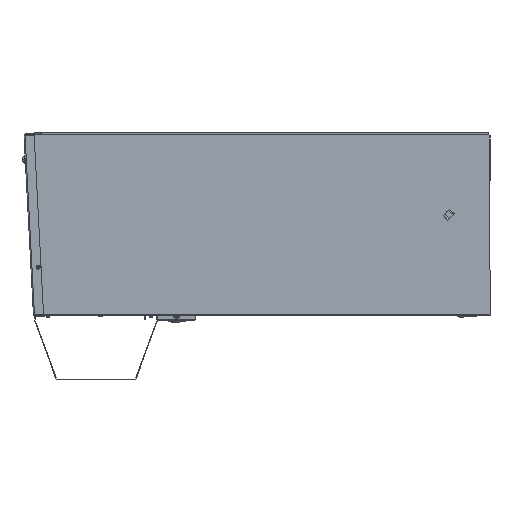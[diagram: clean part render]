
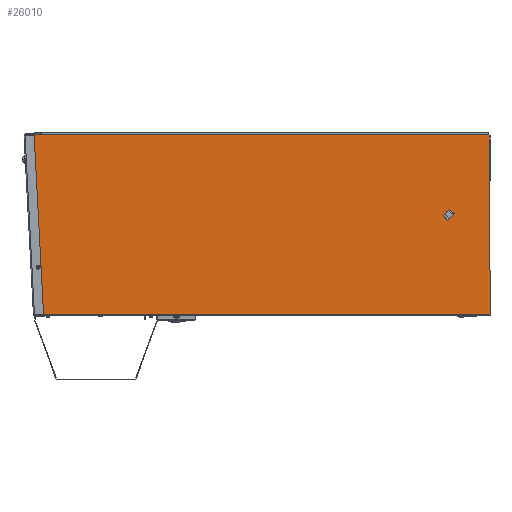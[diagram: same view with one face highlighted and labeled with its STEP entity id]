
A CAD part, left-side view. The second image highlights one B-rep face of the part: STEP entity #26010.
In plain terms, the highlighted planar face has unit normal (-1, 0, 0).
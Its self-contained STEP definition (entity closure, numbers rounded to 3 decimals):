
#206 = ORIENTED_EDGE ( 'NONE', *, *, #128121, .T. ) ;
#1300 = CARTESIAN_POINT ( 'NONE',  ( -147.5, 875.797, -83.64 ) ) ;
#3246 = ORIENTED_EDGE ( 'NONE', *, *, #89062, .T. ) ;
#5063 = EDGE_CURVE ( 'NONE', #69614, #211356, #109541, .T. ) ;
#5707 = LINE ( 'NONE', #210403, #140465 ) ;
#6146 = VERTEX_POINT ( 'NONE', #152142 ) ;
#6291 = LINE ( 'NONE', #91248, #21149 ) ;
#6830 = EDGE_CURVE ( 'NONE', #69614, #193072, #6291, .T. ) ;
#12354 = DIRECTION ( 'NONE',  ( -1., 0., 0. ) ) ;
#21149 = VECTOR ( 'NONE', #153385, 1000. ) ;
#23368 = CARTESIAN_POINT ( 'NONE',  ( -147.5, 74.952, 17.807 ) ) ;
#26010 = ADVANCED_FACE ( 'NONE', ( #128750, #64424, #129814 ), #78613, .F. ) ;
#26681 = DIRECTION ( 'NONE',  ( 0., 0.707, 0.707 ) ) ;
#29932 = CIRCLE ( 'NONE', #151705, 3.05 ) ;
#30092 = VECTOR ( 'NONE', #203098, 1000. ) ;
#34914 = CARTESIAN_POINT ( 'NONE',  ( -147.5, 53.103, 21.696 ) ) ;
#35849 = AXIS2_PLACEMENT_3D ( 'NONE', #76466, #143995, #47012 ) ;
#40378 = VECTOR ( 'NONE', #213830, 1000. ) ;
#42177 = CARTESIAN_POINT ( 'NONE',  ( -147.5, -17.578, -177.5 ) ) ;
#43157 = VERTEX_POINT ( 'NONE', #43801 ) ;
#43468 = EDGE_LOOP ( 'NONE', ( #173493, #173336, #144610, #46913 ) ) ;
#43801 = CARTESIAN_POINT ( 'NONE',  ( -147.5, 875.797, -80.59 ) ) ;
#45642 = VERTEX_POINT ( 'NONE', #205875 ) ;
#46913 = ORIENTED_EDGE ( 'NONE', *, *, #5063, .T. ) ;
#47012 = DIRECTION ( 'NONE',  ( 0., 0., -1. ) ) ;
#48012 = DIRECTION ( 'NONE',  ( 1., 0., 0. ) ) ;
#48973 = EDGE_LOOP ( 'NONE', ( #3246, #190697, #116037, #52272, #118122, #141368 ) ) ;
#51264 = CARTESIAN_POINT ( 'NONE',  ( -147.5, 65.972, 8.827 ) ) ;
#52272 = ORIENTED_EDGE ( 'NONE', *, *, #133655, .F. ) ;
#52761 = CARTESIAN_POINT ( 'NONE',  ( -147.5, 431.922, 177.5 ) ) ;
#53827 = CARTESIAN_POINT ( 'NONE',  ( -147.5, 880.191, -200.993 ) ) ;
#58717 = DIRECTION ( 'NONE',  ( -1., 0., 0. ) ) ;
#61850 = AXIS2_PLACEMENT_3D ( 'NONE', #1300, #134194, #98311 ) ;
#62185 = CARTESIAN_POINT ( 'NONE',  ( -147.5, 875.797, -83.64 ) ) ;
#64424 = FACE_BOUND ( 'NONE', #43468, .T. ) ;
#65259 = CIRCLE ( 'NONE', #113489, 2. ) ;
#69614 = VERTEX_POINT ( 'NONE', #51264 ) ;
#70494 = DIRECTION ( 'NONE',  ( 0., -0.707, 0.707 ) ) ;
#72603 = LINE ( 'NONE', #169626, #157753 ) ;
#74018 = EDGE_LOOP ( 'NONE', ( #95910, #206 ) ) ;
#76466 = CARTESIAN_POINT ( 'NONE',  ( -147.5, 431.922, -177.5 ) ) ;
#78613 = PLANE ( 'NONE',  #35849 ) ;
#83522 = CIRCLE ( 'NONE', #194819, 2. ) ;
#84172 = CARTESIAN_POINT ( 'NONE',  ( -147.5, -17.578, -176.636 ) ) ;
#89062 = EDGE_CURVE ( 'NONE', #214946, #163605, #120352, .T. ) ;
#91248 = CARTESIAN_POINT ( 'NONE',  ( -147.5, 65.477, 9.322 ) ) ;
#95910 = ORIENTED_EDGE ( 'NONE', *, *, #152294, .T. ) ;
#98311 = DIRECTION ( 'NONE',  ( 0., 0., -1. ) ) ;
#103212 = CARTESIAN_POINT ( 'NONE',  ( -147.5, 897.92, 177.5 ) ) ;
#104009 = LINE ( 'NONE', #53827, #30092 ) ;
#105808 = EDGE_CURVE ( 'NONE', #145091, #158499, #139170, .T. ) ;
#109541 = LINE ( 'NONE', #212916, #212150 ) ;
#109702 = CARTESIAN_POINT ( 'NONE',  ( -147.5, -17.578, 175.5 ) ) ;
#113489 = AXIS2_PLACEMENT_3D ( 'NONE', #114741, #12354, #194267 ) ;
#113953 = EDGE_CURVE ( 'NONE', #158499, #214946, #83522, .T. ) ;
#114738 = LINE ( 'NONE', #211696, #40378 ) ;
#114741 = CARTESIAN_POINT ( 'NONE',  ( -147.5, 897.92, 175.5 ) ) ;
#116037 = ORIENTED_EDGE ( 'NONE', *, *, #129160, .F. ) ;
#118122 = ORIENTED_EDGE ( 'NONE', *, *, #105808, .T. ) ;
#119658 = VERTEX_POINT ( 'NONE', #207404 ) ;
#120350 = CIRCLE ( 'NONE', #61850, 3.05 ) ;
#120352 = LINE ( 'NONE', #52761, #146982 ) ;
#128121 = EDGE_CURVE ( 'NONE', #43157, #45642, #29932, .T. ) ;
#128663 = DIRECTION ( 'NONE',  ( 0., 0., -1. ) ) ;
#128750 = FACE_BOUND ( 'NONE', #74018, .T. ) ;
#128759 = CARTESIAN_POINT ( 'NONE',  ( -147.5, 62.083, 30.677 ) ) ;
#129160 = EDGE_CURVE ( 'NONE', #119658, #6146, #104009, .T. ) ;
#129814 = FACE_OUTER_BOUND ( 'NONE', #48973, .T. ) ;
#130665 = EDGE_CURVE ( 'NONE', #163605, #6146, #65259, .T. ) ;
#133655 = EDGE_CURVE ( 'NONE', #145091, #119658, #114738, .T. ) ;
#134194 = DIRECTION ( 'NONE',  ( 1., 0., 0. ) ) ;
#137738 = DIRECTION ( 'NONE',  ( 0., 1., 0. ) ) ;
#139170 = LINE ( 'NONE', #42177, #152546 ) ;
#140465 = VECTOR ( 'NONE', #209328, 1000. ) ;
#141368 = ORIENTED_EDGE ( 'NONE', *, *, #113953, .T. ) ;
#141513 = CARTESIAN_POINT ( 'NONE',  ( -147.5, -15.578, 175.5 ) ) ;
#142377 = DIRECTION ( 'NONE',  ( 0., 0., 1. ) ) ;
#143995 = DIRECTION ( 'NONE',  ( 1., 0., 0. ) ) ;
#144610 = ORIENTED_EDGE ( 'NONE', *, *, #6830, .F. ) ;
#145091 = VERTEX_POINT ( 'NONE', #84172 ) ;
#146982 = VECTOR ( 'NONE', #137738, 1000. ) ;
#151705 = AXIS2_PLACEMENT_3D ( 'NONE', #62185, #48012, #128663 ) ;
#152142 = CARTESIAN_POINT ( 'NONE',  ( -147.5, 899.917, 175.395 ) ) ;
#152294 = EDGE_CURVE ( 'NONE', #45642, #43157, #120350, .T. ) ;
#152546 = VECTOR ( 'NONE', #142377, 1000. ) ;
#153385 = DIRECTION ( 'NONE',  ( 0., -0.707, 0.707 ) ) ;
#157753 = VECTOR ( 'NONE', #70494, 1000. ) ;
#158499 = VERTEX_POINT ( 'NONE', #109702 ) ;
#163605 = VERTEX_POINT ( 'NONE', #103212 ) ;
#166367 = EDGE_CURVE ( 'NONE', #211356, #213048, #72603, .T. ) ;
#169540 = EDGE_CURVE ( 'NONE', #213048, #193072, #5707, .T. ) ;
#169626 = CARTESIAN_POINT ( 'NONE',  ( -147.5, 74.457, 18.302 ) ) ;
#173336 = ORIENTED_EDGE ( 'NONE', *, *, #169540, .T. ) ;
#173493 = ORIENTED_EDGE ( 'NONE', *, *, #166367, .T. ) ;
#173914 = CARTESIAN_POINT ( 'NONE',  ( -147.5, -15.578, 177.5 ) ) ;
#190697 = ORIENTED_EDGE ( 'NONE', *, *, #130665, .T. ) ;
#193072 = VERTEX_POINT ( 'NONE', #34914 ) ;
#194267 = DIRECTION ( 'NONE',  ( 0., 0., -1. ) ) ;
#194819 = AXIS2_PLACEMENT_3D ( 'NONE', #141513, #58717, #194845 ) ;
#194845 = DIRECTION ( 'NONE',  ( 0., 0., -1. ) ) ;
#203098 = DIRECTION ( 'NONE',  ( 0., 0.052, 0.999 ) ) ;
#205875 = CARTESIAN_POINT ( 'NONE',  ( -147.5, 875.797, -86.69 ) ) ;
#207404 = CARTESIAN_POINT ( 'NONE',  ( -147.5, 881.468, -176.636 ) ) ;
#209328 = DIRECTION ( 'NONE',  ( 0., -0.707, -0.707 ) ) ;
#210403 = CARTESIAN_POINT ( 'NONE',  ( -147.5, 57.593, 26.187 ) ) ;
#211356 = VERTEX_POINT ( 'NONE', #23368 ) ;
#211696 = CARTESIAN_POINT ( 'NONE',  ( -147.5, 881.468, -176.636 ) ) ;
#212150 = VECTOR ( 'NONE', #26681, 1000. ) ;
#212916 = CARTESIAN_POINT ( 'NONE',  ( -147.5, 70.462, 13.317 ) ) ;
#213048 = VERTEX_POINT ( 'NONE', #128759 ) ;
#213830 = DIRECTION ( 'NONE',  ( 0., 1., 0. ) ) ;
#214946 = VERTEX_POINT ( 'NONE', #173914 ) ;
